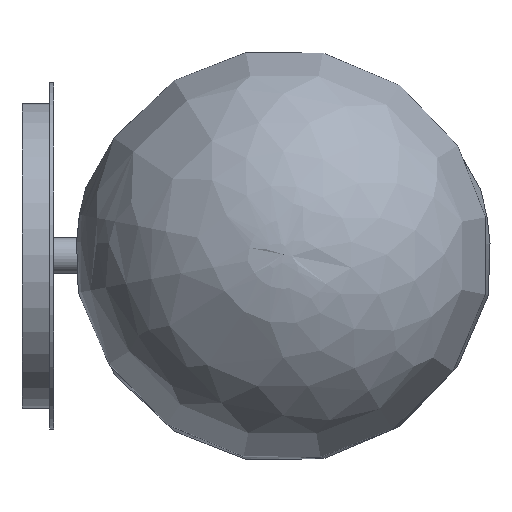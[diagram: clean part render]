
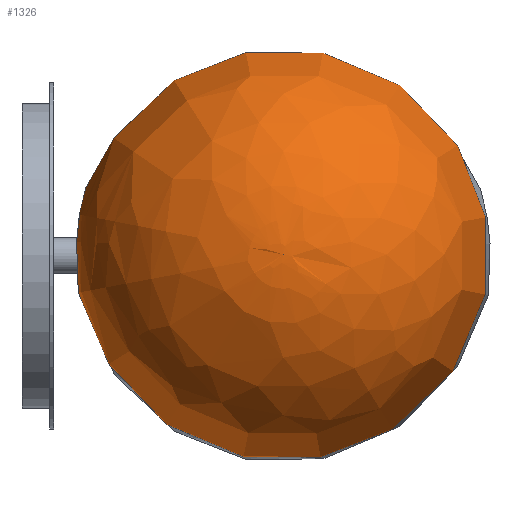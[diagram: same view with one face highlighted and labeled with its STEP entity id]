
A CAD part, top view. The second image highlights one B-rep face of the part: STEP entity #1326.
In plain terms, the highlighted free-form (B-spline) face has degree [2, 2] with [5, 9] control points.
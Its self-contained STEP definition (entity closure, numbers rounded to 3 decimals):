
#18=(
BOUNDED_SURFACE()
B_SPLINE_SURFACE(2,2,((#2479,#2480,#2481,#2482,#2483,#2484,#2485,#2486,
#2487),(#2488,#2489,#2490,#2491,#2492,#2493,#2494,#2495,#2496),(#2497,#2498,
#2499,#2500,#2501,#2502,#2503,#2504,#2505),(#2506,#2507,#2508,#2509,#2510,
#2511,#2512,#2513,#2514),(#2515,#2516,#2517,#2518,#2519,#2520,#2521,#2522,
#2523)),.UNSPECIFIED.,.F.,.T.,.F.)
B_SPLINE_SURFACE_WITH_KNOTS((3,2,3),(3,2,2,2,3),(-1.227,0.173,
1.572),(-3.142,-1.571,0.,1.571,
3.142),.UNSPECIFIED.)
GEOMETRIC_REPRESENTATION_ITEM()
RATIONAL_B_SPLINE_SURFACE(((1.,0.707,1.,0.707,1.,
0.707,1.,0.707,1.),(0.765,0.541,
0.765,0.541,0.765,0.541,
0.765,0.541,0.765),(1.,0.707,
1.,0.707,1.,0.707,1.,0.707,1.),(0.765,
0.541,0.765,0.541,0.765,
0.541,0.765,0.541,0.765),
(1.,0.707,1.,0.707,1.,0.707,1.,0.707,
1.)))
REPRESENTATION_ITEM('')
SURFACE()
);
#321=FACE_OUTER_BOUND('',#442,.T.);
#442=EDGE_LOOP('',(#1139,#1140,#1141));
#556=CIRCLE('',#1555,25.378);
#558=CIRCLE('',#1557,75.);
#668=VERTEX_POINT('',#2476);
#669=VERTEX_POINT('',#2524);
#828=EDGE_CURVE('',#668,#668,#556,.T.);
#830=EDGE_CURVE('',#669,#668,#558,.T.);
#1139=ORIENTED_EDGE('',*,*,#830,.T.);
#1140=ORIENTED_EDGE('',*,*,#828,.T.);
#1141=ORIENTED_EDGE('',*,*,#830,.F.);
#1326=ADVANCED_FACE('',(#321),#18,.F.);
#1555=AXIS2_PLACEMENT_3D('',#2477,#1993,#1994);
#1557=AXIS2_PLACEMENT_3D('',#2525,#1997,#1998);
#1993=DIRECTION('center_axis',(0.,0.,
1.));
#1994=DIRECTION('ref_axis',(-0.182,0.983,0.));
#1997=DIRECTION('center_axis',(0.182,-0.983,0.));
#1998=DIRECTION('ref_axis',(-0.983,-0.182,0.));
#2476=CARTESIAN_POINT('',(-24.956,-4.611,491.215));
#2477=CARTESIAN_POINT('Origin',(0.,0.,
491.215));
#2479=CARTESIAN_POINT('Ctrl Pts',(-24.956,-4.611,491.215));
#2480=CARTESIAN_POINT('Ctrl Pts',(-20.344,-29.567,491.215));
#2481=CARTESIAN_POINT('Ctrl Pts',(4.611,-24.956,491.215));
#2482=CARTESIAN_POINT('Ctrl Pts',(29.567,-20.344,491.215));
#2483=CARTESIAN_POINT('Ctrl Pts',(24.956,4.611,491.215));
#2484=CARTESIAN_POINT('Ctrl Pts',(20.344,29.567,491.215));
#2485=CARTESIAN_POINT('Ctrl Pts',(-4.611,24.956,491.215));
#2486=CARTESIAN_POINT('Ctrl Pts',(-29.567,20.344,491.215));
#2487=CARTESIAN_POINT('Ctrl Pts',(-24.956,-4.611,491.215));
#2488=CARTESIAN_POINT('Ctrl Pts',(-83.428,-15.416,512.491));
#2489=CARTESIAN_POINT('Ctrl Pts',(-68.012,-98.844,512.491));
#2490=CARTESIAN_POINT('Ctrl Pts',(15.416,-83.428,512.491));
#2491=CARTESIAN_POINT('Ctrl Pts',(98.844,-68.012,512.491));
#2492=CARTESIAN_POINT('Ctrl Pts',(83.428,15.416,512.491));
#2493=CARTESIAN_POINT('Ctrl Pts',(68.012,98.844,512.491));
#2494=CARTESIAN_POINT('Ctrl Pts',(-15.416,83.428,512.491));
#2495=CARTESIAN_POINT('Ctrl Pts',(-98.844,68.012,512.491));
#2496=CARTESIAN_POINT('Ctrl Pts',(-83.428,-15.416,512.491));
#2497=CARTESIAN_POINT('Ctrl Pts',(-72.765,-13.445,574.707));
#2498=CARTESIAN_POINT('Ctrl Pts',(-59.32,-86.211,574.707));
#2499=CARTESIAN_POINT('Ctrl Pts',(13.445,-72.765,574.707));
#2500=CARTESIAN_POINT('Ctrl Pts',(86.211,-59.32,574.707));
#2501=CARTESIAN_POINT('Ctrl Pts',(72.765,13.445,574.707));
#2502=CARTESIAN_POINT('Ctrl Pts',(59.32,86.211,574.707));
#2503=CARTESIAN_POINT('Ctrl Pts',(-13.445,72.765,574.707));
#2504=CARTESIAN_POINT('Ctrl Pts',(-86.211,59.32,574.707));
#2505=CARTESIAN_POINT('Ctrl Pts',(-72.765,-13.445,574.707));
#2506=CARTESIAN_POINT('Ctrl Pts',(-62.103,-11.475,636.923));
#2507=CARTESIAN_POINT('Ctrl Pts',(-50.627,-73.578,636.923));
#2508=CARTESIAN_POINT('Ctrl Pts',(11.475,-62.103,636.923));
#2509=CARTESIAN_POINT('Ctrl Pts',(73.578,-50.627,636.923));
#2510=CARTESIAN_POINT('Ctrl Pts',(62.103,11.475,636.923));
#2511=CARTESIAN_POINT('Ctrl Pts',(50.627,73.578,636.923));
#2512=CARTESIAN_POINT('Ctrl Pts',(-11.475,62.103,636.923));
#2513=CARTESIAN_POINT('Ctrl Pts',(-73.578,50.627,636.923));
#2514=CARTESIAN_POINT('Ctrl Pts',(-62.103,-11.475,636.923));
#2515=CARTESIAN_POINT('Ctrl Pts',(0.,0.,
636.83));
#2516=CARTESIAN_POINT('Ctrl Pts',(0.,0.,
636.83));
#2517=CARTESIAN_POINT('Ctrl Pts',(0.,0.,
636.83));
#2518=CARTESIAN_POINT('Ctrl Pts',(0.,0.,
636.83));
#2519=CARTESIAN_POINT('Ctrl Pts',(0.,0.,
636.83));
#2520=CARTESIAN_POINT('Ctrl Pts',(0.,0.,
636.83));
#2521=CARTESIAN_POINT('Ctrl Pts',(0.,0.,
636.83));
#2522=CARTESIAN_POINT('Ctrl Pts',(0.,0.,
636.83));
#2523=CARTESIAN_POINT('Ctrl Pts',(0.,0.,
636.83));
#2524=CARTESIAN_POINT('',(0.,0.,636.83));
#2525=CARTESIAN_POINT('Origin',(-0.109,-0.02,
561.83));
